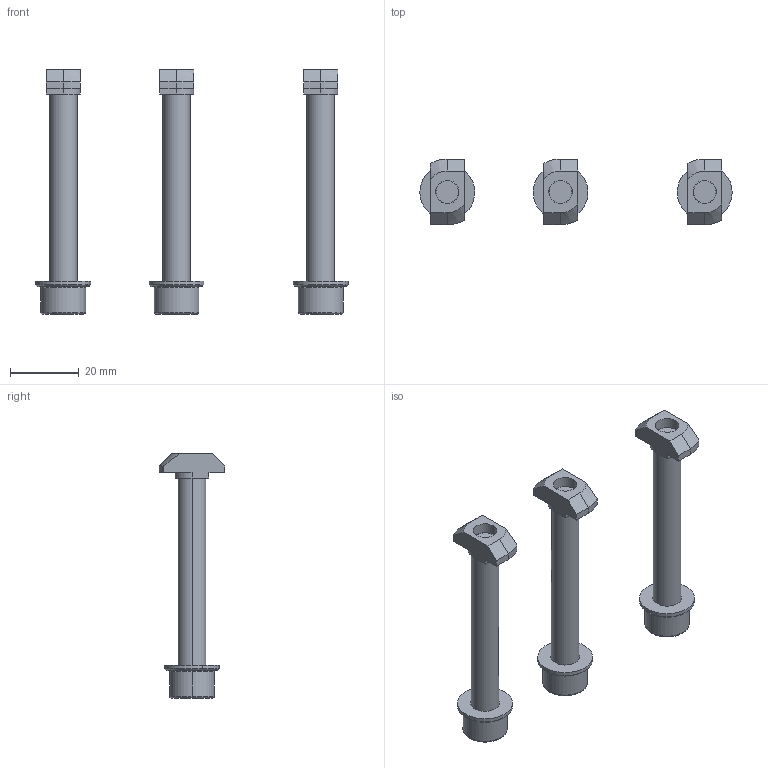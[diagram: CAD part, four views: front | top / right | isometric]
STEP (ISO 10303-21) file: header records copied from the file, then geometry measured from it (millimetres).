
FILE_DESCRIPTION (( 'STEP AP203' ), '1' );
FILE_NAME ('75000010.STEP', '2016-11-18T09:12:41', ( '' ), ( '' ), 'SwSTEP 2.0', 'SolidWorks 2015', '' );
FILE_SCHEMA (( 'CONFIG_CONTROL_DESIGN' ));
Length unit declared in the file: millimetre
Products named in the file (1): 75000010
Bounding box: 90.98 x 19.2 x 71.1 mm (x, y, z)
Volume: 14682.2 mm3; surface area: 8908.4 mm2
Topology: 3 solids, 3 shells, 144 faces, 330 edges, 210 vertices
Faces by surface type: plane 72, cylinder 42, cone 24, torus 6
Entity records: 4157 total; most frequent: DIRECTION 734, CARTESIAN_POINT 727, ORIENTED_EDGE 660, EDGE_CURVE 330, AXIS2_PLACEMENT_3D 265, VERTEX_POINT 210, LINE 204, VECTOR 204
